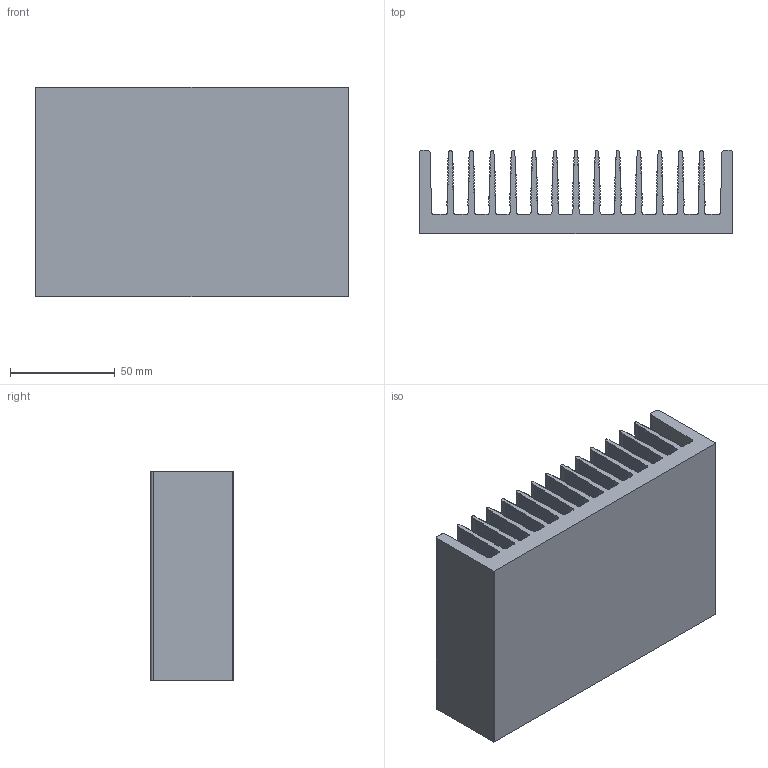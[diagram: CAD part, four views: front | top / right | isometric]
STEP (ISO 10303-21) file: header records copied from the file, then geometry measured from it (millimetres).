
FILE_DESCRIPTION (( 'STEP AP214' ), '1' );
FILE_NAME ('PR369.STEP', '2013-06-13T17:35:22', ( '' ), ( '' ), 'SwSTEP 2.0', 'SolidWorks 2013', '' );
FILE_SCHEMA (( 'AUTOMOTIVE_DESIGN' ));
Length unit declared in the file: millimetre
Products named in the file (1): PR369
Bounding box: 150 x 39.5 x 100 mm (x, y, z)
Volume: 269195.3 mm3; surface area: 131434.7 mm2
Topology: 1 solids, 1 shells, 2488 faces, 7458 edges, 4972 vertices
Faces by surface type: cylinder 1477, plane 1011
Entity records: 85050 total; most frequent: DIRECTION 15390, CARTESIAN_POINT 14919, ORIENTED_EDGE 14916, EDGE_CURVE 7458, AXIS2_PLACEMENT_3D 5443, VERTEX_POINT 4972, LINE 4504, VECTOR 4504
